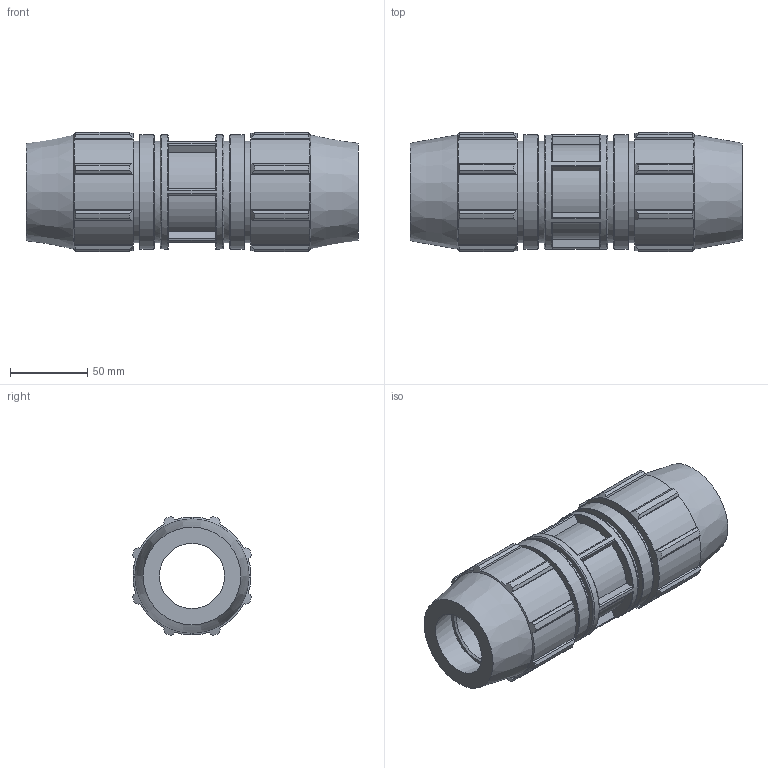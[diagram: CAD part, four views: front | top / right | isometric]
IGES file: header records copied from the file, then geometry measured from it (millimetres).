
Global section: file name: 0761M0013.ipt; native system: Autodesk Inventor 2019; preprocessor: unknown; author: KIM; date: 20210826.124845; units: inch
Bounding box: 214.88 x 77.2 x 77.2 mm (x, y, z)
Volume: 559156.3 mm3; surface area: 96259.9 mm2
Topology: 1 solids, 1 shells, 200 faces, 559 edges, 376 vertices
Faces by surface type: plane 100, cylinder 57, revolution 23, cone 20
Full cylindrical faces by diameter (mm): 65.634 x4, 73.838 x3
